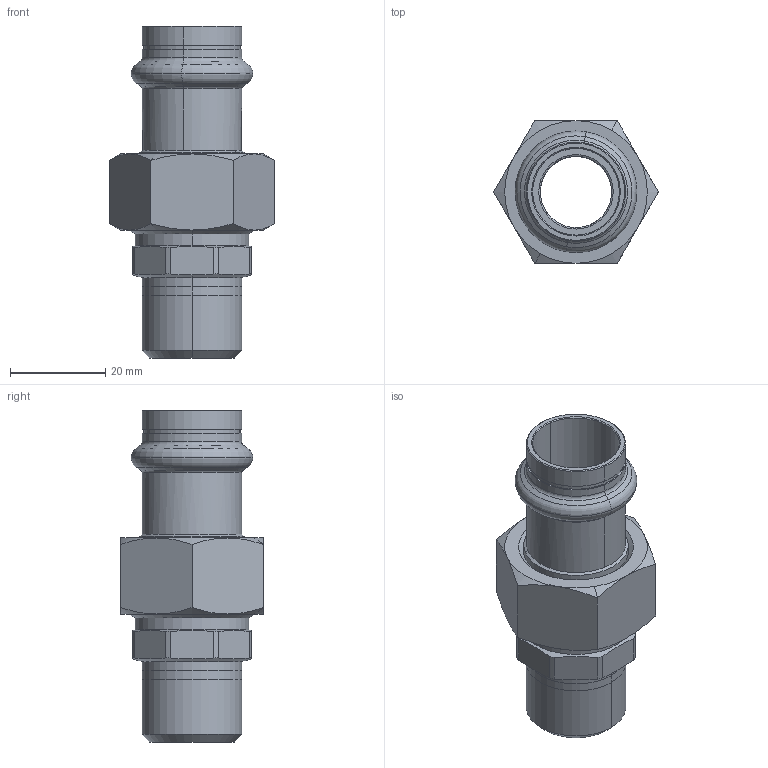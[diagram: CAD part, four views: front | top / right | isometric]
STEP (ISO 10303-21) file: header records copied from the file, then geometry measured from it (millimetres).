
FILE_DESCRIPTION(('CoCreate Modeling STEP Export'),'2;1');
FILE_NAME('8331GVW1812.stp','2013-03-05T12:43:51',(''),(''),'CoCreate Modeling STEP processor for AP214 (Solid Model)','CoCreate Modeling 17.00A 17-Jun-2010 (C) Parametric Technology GmbH','');
FILE_SCHEMA(('AUTOMOTIVE_DESIGN { 1 0 10303 214 1 1 1 1 }'));
Length unit declared in the file: millimetre
Products named in the file (4): DRAAD; MOER; wartelpuntstuk_C-pr_18x3.1; 8331GVW1812
Assembly tree (3 placements, depth 2):
  8331GVW1812
    wartelpuntstuk_C-pr_18x3.1
    MOER
    DRAAD
Bounding box: 34.64 x 30 x 69.8 mm (x, y, z)
Volume: 18094 mm3; surface area: 12977.3 mm2
Topology: 3 solids, 3 shells, 132 faces, 307 edges, 185 vertices
Faces by surface type: cylinder 48, cone 48, plane 24, torus 12
Entity records: 4783 total; most frequent: CARTESIAN_POINT 2142, ORIENTED_EDGE 614, DIRECTION 392, EDGE_CURVE 307, VERTEX_POINT 185, AXIS2_PLACEMENT_3D 147, EDGE_LOOP 142, FACE_OUTER_BOUND 132
